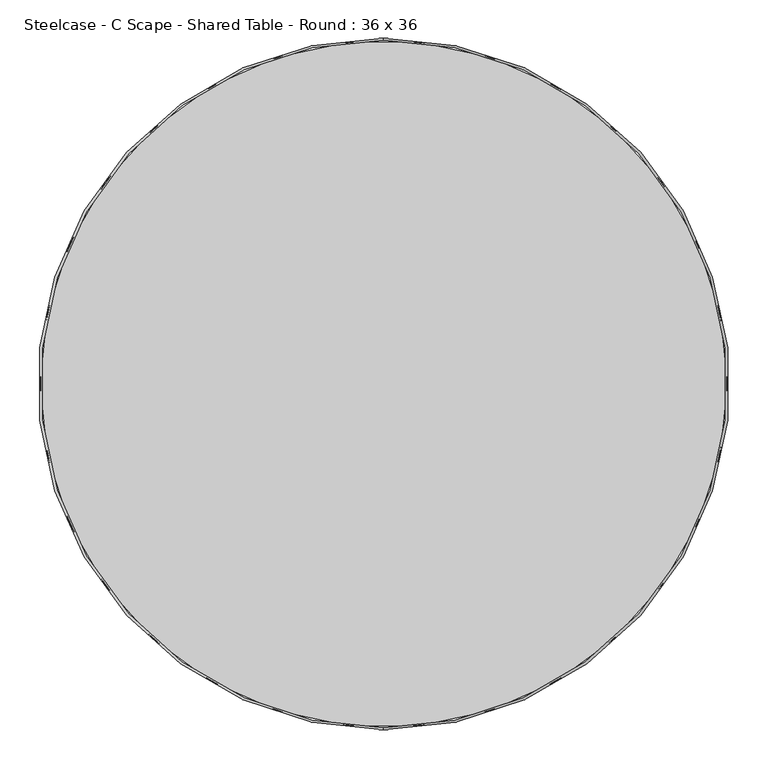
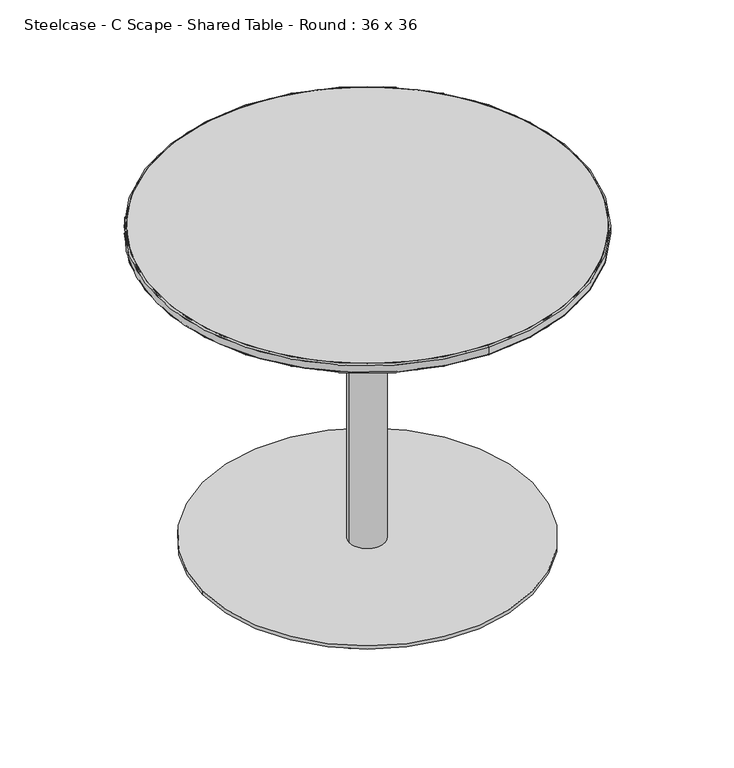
"""IFC4 building model written with IfcOpenShell, lengths in millimetres: furniture geometry, Steelcase - C Scape - Shared Table - Round : 36 x 36."""

from ifc_helpers import new_model, si_unit, point, frame, frame_2d, origin, origin_with_axes, place, context, project, spatial, polyline, circle_curve, ellipse_curve, trimmed, segment, composite_curve, outline, extrude, source, transform, mapped, element, save
from ifc_brep_helpers import plane_surface, cylinder_surface, revolved_surface, advanced_brep


def steelcase_c_scape_shared_table_round_36_x_36_5c1397c3(model_context):
    return source(origin(), model_context, "Body", "SolidModel", [
        extrude(outline(composite_curve([segment(trimmed(circle_curve(frame_2d((461.9169393, -130.1887078)), 19.05), [point((442.8669393, -130.1887078))], [point((480.9669393, -130.1887078))], False, "CARTESIAN"), True, "CONTINUOUS"), segment(trimmed(circle_curve(frame_2d((461.9169393, -130.1887078)), 19.05), [point((480.9669393, -130.1887078))], [point((442.8669393, -130.1887078))], False, "CARTESIAN"), True, "CONTINUOUS")], self_intersect=False)), origin_with_axes(), (0.0, 0.0, 1.0), 4.7752),
        extrude(outline(composite_curve([segment(trimmed(circle_curve(frame_2d((773.3274141, -355.7223889)), 19.05), [point((754.2774141, -355.7223889))], [point((792.3774141, -355.7223889))], False, "CARTESIAN"), True, "CONTINUOUS"), segment(trimmed(circle_curve(frame_2d((773.3274141, -355.7223889)), 19.05), [point((792.3774141, -355.7223889))], [point((754.2774141, -355.7223889))], False, "CARTESIAN"), True, "CONTINUOUS")], self_intersect=False)), origin_with_axes(), (0.0, 0.0, 1.0), 4.7752),
        extrude(outline(composite_curve([segment(trimmed(circle_curve(frame_2d((141.0725859, -355.7223889)), 19.05), [point((122.0225859, -355.7223889))], [point((160.1225859, -355.7223889))], False, "CARTESIAN"), True, "CONTINUOUS"), segment(trimmed(circle_curve(frame_2d((141.0725859, -355.7223889)), 19.05), [point((160.1225859, -355.7223889))], [point((122.0225859, -355.7223889))], False, "CARTESIAN"), True, "CONTINUOUS")], self_intersect=False)), origin_with_axes(), (0.0, 0.0, 1.0), 4.7752),
        extrude(outline(composite_curve([segment(trimmed(circle_curve(frame_2d((267.1814105, -725.1440092)), 19.05), [point((248.1314105, -725.1440092))], [point((286.2314105, -725.1440092))], False, "CARTESIAN"), True, "CONTINUOUS"), segment(trimmed(circle_curve(frame_2d((267.1814105, -725.1440092)), 19.05), [point((286.2314105, -725.1440092))], [point((248.1314105, -725.1440092))], False, "CARTESIAN"), True, "CONTINUOUS")], self_intersect=False)), origin_with_axes(), (0.0, 0.0, 1.0), 4.7752),
        extrude(outline(composite_curve([segment(trimmed(circle_curve(frame_2d((647.2185895, -725.1440092)), 19.05), [point((628.1685895, -725.1440092))], [point((666.2685895, -725.1440092))], False, "CARTESIAN"), True, "CONTINUOUS"), segment(trimmed(circle_curve(frame_2d((647.2185895, -725.1440092)), 19.05), [point((666.2685895, -725.1440092))], [point((628.1685895, -725.1440092))], False, "CARTESIAN"), True, "CONTINUOUS")], self_intersect=False)), origin_with_axes(), (0.0, 0.0, 1.0), 4.7752),
        extrude(outline(polyline([(367.0461817, -550.8451349), (367.0461817, -373.0450865), (544.8460848, -373.0450865), (544.8460848, -550.8451349), (367.0461817, -550.8451349)])), frame((0.0, 0.0, 686.0031853), z_axis=(0.0, 0.0, 1.0), x_axis=(1.0, 0.0, 0.0)), (0.0, 0.0, 1.0), 9.4488147),
        extrude(outline(composite_curve([segment(trimmed(circle_curve(frame_2d((456.40625, -457.2)), 38.1), [point((418.30625, -457.2))], [point((494.50625, -457.2))], False, "CARTESIAN"), True, "CONTINUOUS"), segment(trimmed(circle_curve(frame_2d((456.40625, -457.2)), 38.1), [point((494.50625, -457.2))], [point((418.30625, -457.2))], False, "CARTESIAN"), True, "CONTINUOUS")], self_intersect=False)), frame((0.0, 0.0, 12.7), z_axis=(0.0, 0.0, 1.0), x_axis=(1.0, 0.0, 0.0)), (0.0, 0.0, 1.0), 673.3031853),
        extrude(outline(composite_curve([segment(trimmed(circle_curve(frame_2d((457.2, -457.2)), 355.6), [point((101.6, -457.2))], [point((812.8, -457.2))], False, "CARTESIAN"), True, "CONTINUOUS"), segment(trimmed(circle_curve(frame_2d((457.2, -457.2)), 355.6), [point((812.8, -457.2))], [point((101.6, -457.2))], False, "CARTESIAN"), True, "CONTINUOUS")], self_intersect=False)), frame((0.0, 0.0, 4.7752), z_axis=(0.0, 0.0, 1.0), x_axis=(1.0, 0.0, 0.0)), (0.0, 0.0, 1.0), 7.9248),
        advanced_brep(
        [(457.2, -2.0827992, 705.9399771), (457.2, -912.3172008, 705.9399771), (457.2, -909.32, 703.453), (457.2, -5.08, 703.453), (457.2, -2.0827992, 720.9027992), (457.2, -912.3172008, 720.9027992), (457.2, -5.08, 723.9), (457.2, -909.32, 723.9)],
        [
            (0, 1, circle_curve(frame((457.2, -457.2, 705.9399771), z_axis=(0.0, 0.0, -1.0), x_axis=(0.0, -1.0, 0.0)), 455.1172008)),
            (1, 2, circle_curve(frame((457.2, -909.7867951, 705.9399771), z_axis=(1.0, 0.0, 0.0), x_axis=(0.0, 1.0, 0.0)), 2.5304056)),
            (2, 3, circle_curve(frame((457.2, -457.2, 703.453), z_axis=(0.0, 0.0, 1.0), x_axis=(0.0, -1.0, 0.0)), 452.12)),
            (3, 0, circle_curve(frame((457.2, -4.6132049, 705.9399771), z_axis=(1.0, 0.0, 0.0), x_axis=(0.0, -1.0, 0.0)), 2.5304056)),
            (4, 5, circle_curve(frame((457.2, -457.2, 720.9027992), z_axis=(0.0, 0.0, -1.0), x_axis=(0.0, -1.0, 0.0)), 455.1172008)),
            (5, 1),
            (0, 4),
            (6, 7, circle_curve(frame((457.2, -457.2, 723.9), z_axis=(0.0, 0.0, -1.0), x_axis=(0.0, -1.0, 0.0)), 452.12)),
            (7, 5, circle_curve(frame((457.2, -909.32, 720.9027992), z_axis=(1.0, 0.0, 0.0), x_axis=(0.0, 1.0, 0.0)), 2.9972008)),
            (4, 6, circle_curve(frame((457.2, -5.08, 720.9027992), z_axis=(1.0, 0.0, 0.0), x_axis=(0.0, -1.0, 0.0)), 2.9972008)),
            (2, 7),
            (6, 3),
            (1, 0, circle_curve(frame((457.2, -457.2, 705.9399771), z_axis=(0.0, 0.0, -1.0), x_axis=(0.0, 1.0, 0.0)), 455.1172008)),
            (3, 2, circle_curve(frame((457.2, -457.2, 703.453), z_axis=(0.0, 0.0, 1.0), x_axis=(0.0, 1.0, 0.0)), 452.12)),
            (5, 4, circle_curve(frame((457.2, -457.2, 720.9027992), z_axis=(0.0, 0.0, -1.0), x_axis=(0.0, 1.0, 0.0)), 455.1172008)),
            (7, 6, circle_curve(frame((457.2, -457.2, 723.9), z_axis=(0.0, 0.0, -1.0), x_axis=(0.0, 1.0, 0.0)), 452.12)),
        ],
        [
            revolved_surface(trimmed(ellipse_curve(frame((457.2, -909.7867951, 705.9399771), z_axis=(-1.0, 0.0, 0.0), x_axis=(0.0, 1.0, 0.0)), 2.5304056, 2.5304056), [point((457.2, -909.32, 703.453))], [point((457.2, -912.3172008, 705.9399771))], True, "CARTESIAN"), (457.2, -457.2, 703.453), (0.0, 0.0, 1.0)),
            cylinder_surface(frame((457.2, -457.2, 703.453), z_axis=(0.0, 0.0, 1.0), x_axis=(0.0, -1.0, 0.0)), 455.1172008),
            revolved_surface(trimmed(ellipse_curve(frame((457.2, -909.32, 720.9027992), z_axis=(-1.0, 0.0, 0.0), x_axis=(0.0, 1.0, 0.0)), 2.9972008, 2.9972008), [point((457.2, -912.3172008, 720.9027992))], [point((457.2, -909.32, 723.9))], True, "CARTESIAN"), (457.2, -457.2, 703.453), (0.0, 0.0, 1.0)),
            revolved_surface(polyline([(457.2, -909.3199999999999, 723.9), (457.2, -909.3199999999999, 703.453)]), (457.2, -457.2, 703.453), (0.0, 0.0, 1.0)),
            revolved_surface(trimmed(ellipse_curve(frame((457.2, -4.6132049, 705.9399771), z_axis=(1.0, 0.0, 0.0), x_axis=(0.0, -1.0, 0.0)), 2.5304056, 2.5304056), [point((457.2, -5.08, 703.453))], [point((457.2, -2.0827992, 705.9399771))], True, "CARTESIAN"), (457.2, -457.2, 703.453), (0.0, 0.0, 1.0)),
            cylinder_surface(frame((457.2, -457.2, 703.453), z_axis=(0.0, 0.0, 1.0), x_axis=(0.0, 1.0, 0.0)), 455.1172008),
            revolved_surface(trimmed(ellipse_curve(frame((457.2, -5.08, 720.9027992), z_axis=(1.0, 0.0, 0.0), x_axis=(0.0, -1.0, 0.0)), 2.9972008, 2.9972008), [point((457.2, -2.0827992, 720.9027992))], [point((457.2, -5.08, 723.9))], True, "CARTESIAN"), (457.2, -457.2, 703.453), (0.0, 0.0, 1.0)),
            revolved_surface(polyline([(457.2, -5.079999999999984, 723.9), (457.2, -5.079999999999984, 703.453)]), (457.2, -457.2, 703.453), (0.0, 0.0, 1.0)),
        ],
        [
            (0, [[1, 2, 3, 4]]),
            (1, [[5, 6, -1, 7]]),
            (2, [[8, 9, -5, 10]]),
            (3, [[-3, 11, -8, 12]]),
            (4, [[13, -4, 14, -2]]),
            (5, [[15, -7, -13, -6]]),
            (6, [[16, -10, -15, -9]]),
            (7, [[-14, -12, -16, -11]]),
        ],
    ),
        extrude(outline(composite_curve([segment(trimmed(circle_curve(frame_2d((457.2, -457.2)), 452.12), [point((5.08, -457.2))], [point((909.32, -457.2))], False, "CARTESIAN"), True, "CONTINUOUS"), segment(trimmed(circle_curve(frame_2d((457.2, -457.2)), 452.12), [point((909.32, -457.2))], [point((5.08, -457.2))], False, "CARTESIAN"), True, "CONTINUOUS")], self_intersect=False)), frame((0.0, 0.0, 703.453), z_axis=(0.0, 0.0, 1.0), x_axis=(1.0, 0.0, 0.0)), (0.0, 0.0, 1.0), 20.447),
        advanced_brep(
        [(5.08, -457.2, 703.453), (909.32, -457.2, 703.453), (52.832, -457.2, 693.928), (861.568, -457.2, 693.928)],
        [
            (0, 1, circle_curve(frame((457.2, -457.2, 703.453), z_axis=(0.0, 0.0, 1.0), x_axis=(-1.0, 0.0, 0.0)), 452.12)),
            (1, 0, circle_curve(frame((457.2, -457.2, 703.453), z_axis=(0.0, 0.0, 1.0), x_axis=(1.0, 0.0, 0.0)), 452.12)),
            (2, 3, circle_curve(frame((457.2, -457.2, 693.928), z_axis=(0.0, 0.0, -1.0), x_axis=(1.0, 0.0, 0.0)), 404.368)),
            (3, 2, circle_curve(frame((457.2, -457.2, 693.928), z_axis=(0.0, 0.0, -1.0), x_axis=(-1.0, 0.0, 0.0)), 404.368)),
            (3, 1),
            (0, 2),
        ],
        [
            plane_surface(frame((457.2, -457.2, 703.453), z_axis=(0.0, 0.0, 1.0), x_axis=(0.0, -1.0, 0.0))),
            plane_surface(frame((457.2, -457.2, 693.928), z_axis=(0.0, 0.0, -1.0), x_axis=(0.0, -1.0, 0.0))),
            revolved_surface(polyline([(861.5679999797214, -457.2, 693.928), (909.32, -457.2, 703.453)]), (457.2, -457.2, 613.2694894), (0.0, 0.0, 1.0)),
            revolved_surface(polyline([(52.83200002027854, -457.2, 693.928), (5.079999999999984, -457.2, 703.453)]), (457.2, -457.2, 613.2694894), (0.0, 0.0, 1.0)),
        ],
        [
            (0, [[1, 2]]),
            (1, [[3, 4]]),
            (2, [[-4, 5, -1, 6]]),
            (3, [[-3, -6, -2, -5]]),
        ],
    ),
    ])


if __name__ == "__main__":
    model = new_model("IFC4")
    model_context = context("Model", 3, world=origin())
    ifc_project = project(units=[si_unit("LENGTHUNIT", "METRE", prefix="MILLI")], contexts=[model_context])
    site = spatial("IfcSite", under=ifc_project)
    building = spatial("IfcBuilding", under=site)
    placement = place(None, origin())
    steelcase_c_scape_shared_table_round_36_x_36_shape = steelcase_c_scape_shared_table_round_36_x_36_5c1397c3(model_context)
    element("IfcFurniture", 1, ObjectType="Steelcase - C Scape - Shared Table - Round : 36 x 36", at=placement, inside=building, context=model_context, shape_type="MappedRepresentation", body=[
        mapped(steelcase_c_scape_shared_table_round_36_x_36_shape, transform((0.0, 0.0, 0.0), x_axis=(1.0, 0.0, 0.0), y_axis=(0.0, 1.0, 0.0), z_axis=(0.0, 0.0, 1.0))),
    ])
    save(model, "model.ifc")
